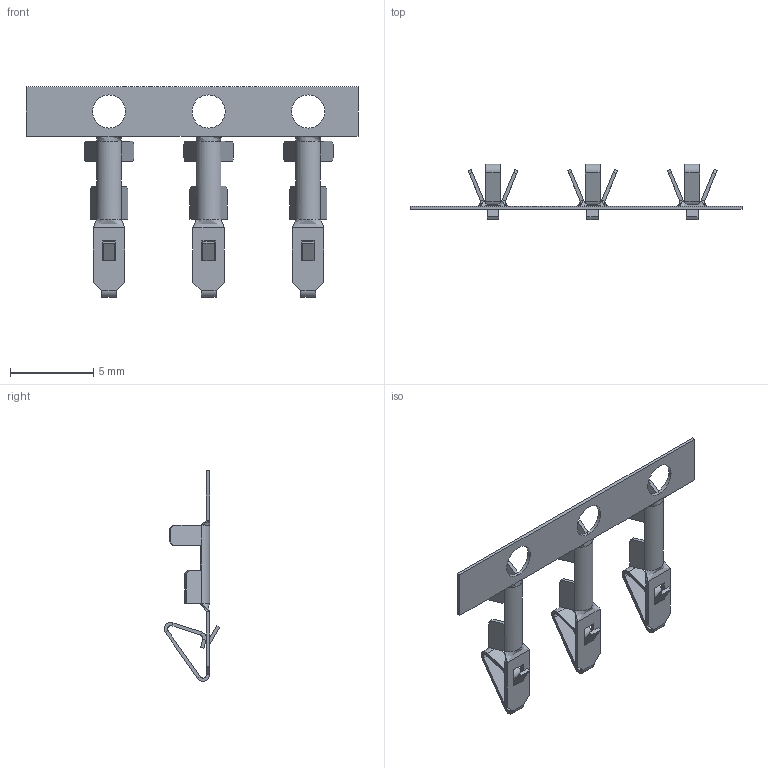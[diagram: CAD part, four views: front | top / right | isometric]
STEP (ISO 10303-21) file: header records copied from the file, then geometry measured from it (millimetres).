
FILE_DESCRIPTION (( 'STEP AP214' ), '1' );
FILE_NAME ('4071-PIN-T-10K.STEP', '2018-05-24T06:36:07', ( 'ADMIN' ), ( '' ), 'SwSTEP 2.0', 'SolidWorks 2011', '' );
FILE_SCHEMA (( 'AUTOMOTIVE_DESIGN' ));
Length unit declared in the file: millimetre
Products named in the file (1): 4071-PIN-T-10K
Bounding box: 20 x 3.34 x 12.7 mm (x, y, z)
Volume: 29 mm3; surface area: 335.5 mm2
Topology: 4 solids, 4 shells, 252 faces, 568 edges, 324 vertices
Faces by surface type: plane 198, cylinder 30, bspline 24
Entity records: 7242 total; most frequent: CARTESIAN_POINT 1696, ORIENTED_EDGE 1136, DIRECTION 1059, EDGE_CURVE 568, LINE 505, VECTOR 505, VERTEX_POINT 324, AXIS2_PLACEMENT_3D 277
